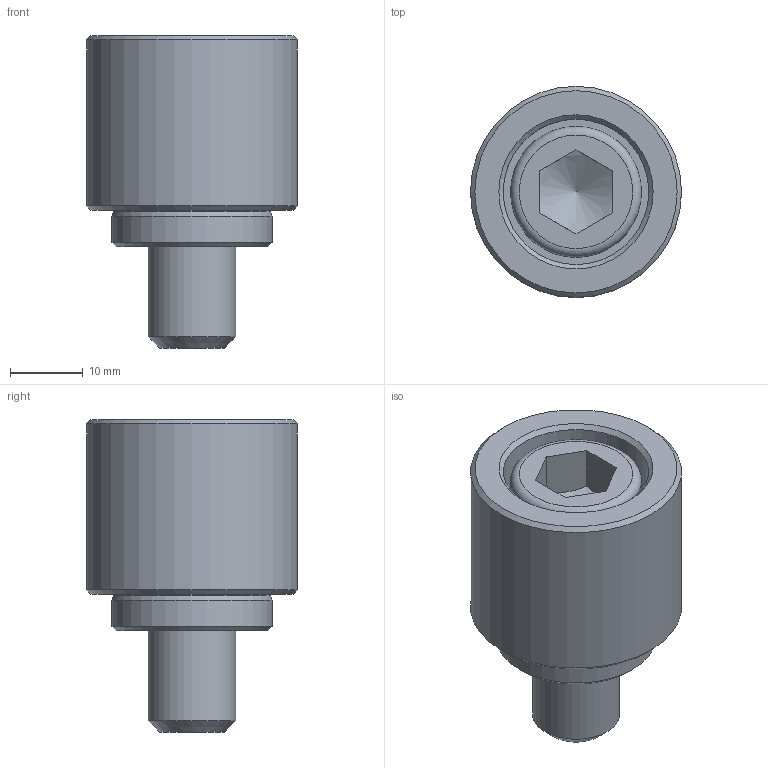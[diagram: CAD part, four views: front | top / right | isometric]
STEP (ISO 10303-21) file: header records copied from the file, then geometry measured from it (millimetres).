
FILE_DESCRIPTION(('STEP AP214'), '1');
FILE_NAME('BB.VS.100.50.024', '', ('UNSPECIFIED'), ('UNSPECIFIED'), 'C3D Converter', 'C3D Toolkit', '');
FILE_SCHEMA(('AUTOMOTIVE_DESIGN { 1 0 10303 214 3 1 1}'));
Length unit declared in the file: millimetre
Products named in the file (1): BB.VS.100.50.024 СБ
Bounding box: 29 x 29 x 43 mm (x, y, z)
Volume: 17213.7 mm3; surface area: 7225 mm2
Topology: 1 solids, 1 shells, 32 faces, 63 edges, 38 vertices
Faces by surface type: plane 13, cone 10, cylinder 6, torus 3
Full cylindrical faces by diameter (mm): 12 x1, 13 x1, 18 x1, 20 x1, 22 x1, 29 x1
Entity records: 1255 total; most frequent: CARTESIAN_POINT 380, DIRECTION 126, ORIENTED_EDGE 86, AXIS2_PLACEMENT_3D 57, EDGE_LOOP 56, EDGE_CURVE 43, VERTEX_POINT 37, FACE_OUTER_BOUND 36
